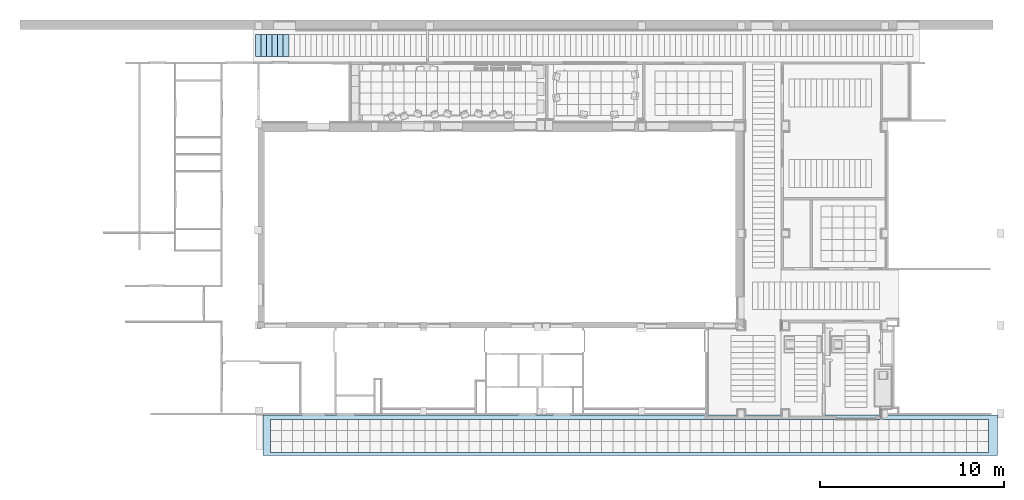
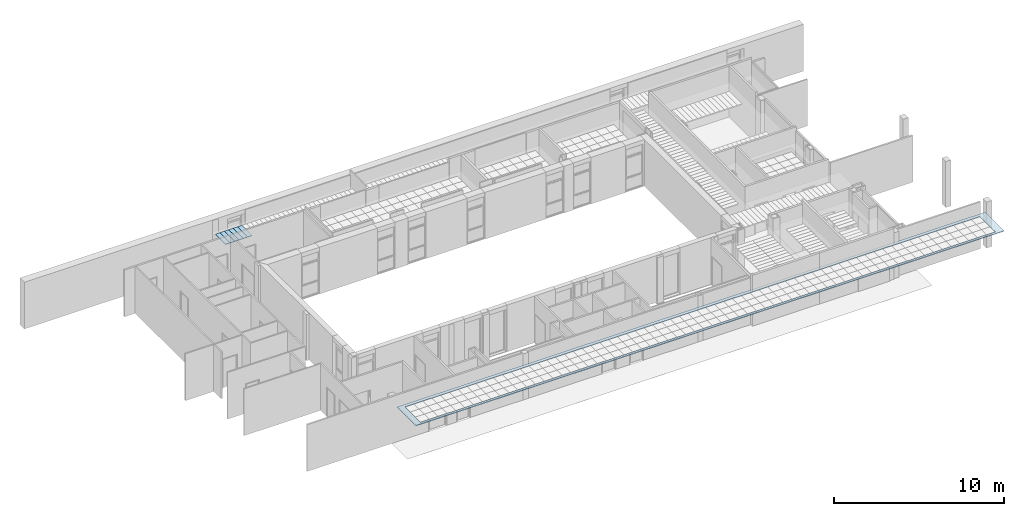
# One storey, part 1 of 60: 7 slabs.
"""IFC2X3 building model written with IfcOpenShell, lengths in millimetres."""

from ifc_helpers import new_model, entity, si_unit, converted_unit, derived_unit, money_unit, direction, frame, origin_with_axes, place, context, subcontext, project, spatial, polyline, outline, extrude, material, layer, layer_set, layer_usage, type_object, element, save


model = new_model("IFC2X3")

# Units and contexts
model_context = context("Model", 3, precision=0.01, world=origin_with_axes(), true_north=direction((0.0, 1.0)))
body_context = subcontext(model_context, "Body", "Model", "MODEL_VIEW")
ifc_project = project(units=[si_unit("LENGTHUNIT", "METRE", prefix="MILLI"), si_unit("AREAUNIT", "SQUARE_METRE"), si_unit("VOLUMEUNIT", "CUBIC_METRE"), converted_unit("PLANEANGLEUNIT", "DEGREE", entity("IfcPlaneAngleMeasure", 0.0174532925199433), si_unit("PLANEANGLEUNIT", "RADIAN"), dimensions=[0, 0, 0, 0, 0, 0, 0]), money_unit("USD"), converted_unit("TIMEUNIT", "Year", entity("IfcTimeMeasure", 31557600.0), si_unit("TIMEUNIT", "SECOND"), dimensions=[0, 0, 1, 0, 0, 0, 0]), si_unit("MASSUNIT", "GRAM", prefix="KILO"), si_unit("THERMODYNAMICTEMPERATUREUNIT", "DEGREE_CELSIUS"), si_unit("LUMINOUSINTENSITYUNIT", "LUMEN"), si_unit("ENERGYUNIT", "JOULE", prefix="MEGA"), derived_unit("THERMALCONDUCTANCEUNIT", [(si_unit("POWERUNIT", "WATT"), 1), (si_unit("LENGTHUNIT", "METRE"), -1), (si_unit("THERMODYNAMICTEMPERATUREUNIT", "KELVIN"), -1)]), derived_unit("SPECIFICHEATCAPACITYUNIT", [(si_unit("ENERGYUNIT", "JOULE"), 1), (si_unit("MASSUNIT", "GRAM", prefix="KILO"), -1), (si_unit("THERMODYNAMICTEMPERATUREUNIT", "KELVIN"), -1)]), derived_unit("MASSDENSITYUNIT", [(si_unit("MASSUNIT", "GRAM", prefix="KILO"), 1), (si_unit("VOLUMEUNIT", "CUBIC_METRE"), -1)])], contexts=[model_context])

# Site, building, storey
site_placement = place(None, origin_with_axes())
site = spatial("IfcSite", under=ifc_project, at=site_placement, Name="Sitio", CompositionType="ELEMENT")
building_placement = place(site_placement, origin_with_axes())
building = spatial("IfcBuilding", under=site, at=building_placement, Name="Construcción", CompositionType="ELEMENT")
storey_placement = place(building_placement, frame((0.0, 0.0, 3650.0), z_axis=(0.0, 0.0, 1.0), x_axis=(1.0, 0.0, 0.0)))
storey = spatial("IfcBuildingStorey", under=building, at=storey_placement, Name="PLANTA 2ª", CompositionType="ELEMENT", Elevation=3650.0)

# Slabs
ifc_material_1 = material(Name="ARQ_ME126_CelRas_Placa_Metallica")
ifc_layer_1 = layer(ifc_material_1, 50.0, ventilated="UNKNOWN")
ifc_layer_set_1 = layer_set([ifc_layer_1], Name="ARQ_ME126_CelRas_Placa_Metallica 50")
ifc_layer_usage_1 = layer_usage(ifc_layer_set_1, "AXIS3", "NEGATIVE", 50.0)
slab_type_1 = type_object("IfcSlabType", Name="ARQ_ME126_CelRas_Placa_Metallica 50", PredefinedType="NOTDEFINED")
slab_1_placement = place(storey_placement, frame((-27270.23708222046, 3586.50452866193, 2500.0), z_axis=(0.0, 0.0, 1.0), x_axis=(1.0, 0.0, 0.0)))
element("IfcSlab", 1, at=slab_1_placement, inside=storey, type_object=slab_type_1, material=ifc_layer_usage_1, Name="SLA - 026", PredefinedType="NOTDEFINED", context=body_context, shape_type="SweptSolid", body=[
    extrude(outline(polyline([(0.0, 0.0), (0.0, -1199.999999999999), (299.9999999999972, -1199.999999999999), (299.9999999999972, 0.0), (0.0, 0.0)])), frame((0.0, 0.0, -50.0), z_axis=(0.0, 0.0, 1.0), x_axis=(1.0, 0.0, 0.0)), (0.0, 0.0, 1.0), 50.0),
])
ifc_layer_usage_2 = layer_usage(ifc_layer_set_1, "AXIS3", "NEGATIVE", 50.0)
slab_2_placement = place(storey_placement, frame((-26970.23708222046, 3586.50452866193, 2500.0), z_axis=(0.0, 0.0, 1.0), x_axis=(1.0, 0.0, 0.0)))
element("IfcSlab", 2, at=slab_2_placement, inside=storey, type_object=slab_type_1, material=ifc_layer_usage_2, Name="SLA - 026", PredefinedType="NOTDEFINED", context=body_context, shape_type="SweptSolid", body=[
    extrude(outline(polyline([(0.0, 0.0), (0.0, -1199.999999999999), (299.9999999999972, -1199.999999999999), (299.9999999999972, 0.0), (0.0, 0.0)])), frame((0.0, 0.0, -50.0), z_axis=(0.0, 0.0, 1.0), x_axis=(1.0, 0.0, 0.0)), (0.0, 0.0, 1.0), 50.0),
])
ifc_layer_usage_3 = layer_usage(ifc_layer_set_1, "AXIS3", "NEGATIVE", 50.0)
slab_3_placement = place(storey_placement, frame((-27570.23708222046, 3586.50452866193, 2500.0), z_axis=(0.0, 0.0, 1.0), x_axis=(1.0, 0.0, 0.0)))
element("IfcSlab", 3, at=slab_3_placement, inside=storey, type_object=slab_type_1, material=ifc_layer_usage_3, Name="SLA - 026", PredefinedType="NOTDEFINED", context=body_context, shape_type="SweptSolid", body=[
    extrude(outline(polyline([(0.0, 0.0), (0.0, -1199.999999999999), (299.9999999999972, -1199.999999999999), (299.9999999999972, 0.0), (0.0, 0.0)])), frame((0.0, 0.0, -50.0), z_axis=(0.0, 0.0, 1.0), x_axis=(1.0, 0.0, 0.0)), (0.0, 0.0, 1.0), 50.0),
])
ifc_layer_usage_4 = layer_usage(ifc_layer_set_1, "AXIS3", "NEGATIVE", 50.0)
slab_4_placement = place(storey_placement, frame((-26670.23708222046, 3586.50452866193, 2500.0), z_axis=(0.0, 0.0, 1.0), x_axis=(1.0, 0.0, 0.0)))
element("IfcSlab", 4, at=slab_4_placement, inside=storey, type_object=slab_type_1, material=ifc_layer_usage_4, Name="SLA - 026", PredefinedType="NOTDEFINED", context=body_context, shape_type="SweptSolid", body=[
    extrude(outline(polyline([(0.0, 0.0), (0.0, -1199.999999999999), (300.0000000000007, -1199.999999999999), (300.0000000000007, 0.0), (0.0, 0.0)])), frame((0.0, 0.0, -50.0), z_axis=(0.0, 0.0, 1.0), x_axis=(1.0, 0.0, 0.0)), (0.0, 0.0, 1.0), 50.0),
])
ifc_layer_usage_5 = layer_usage(ifc_layer_set_1, "AXIS3", "NEGATIVE", 50.0)
slab_5_placement = place(storey_placement, frame((-27870.23708222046, 3586.50452866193, 2500.0), z_axis=(0.0, 0.0, 1.0), x_axis=(1.0, 0.0, 0.0)))
element("IfcSlab", 5, at=slab_5_placement, inside=storey, type_object=slab_type_1, material=ifc_layer_usage_5, Name="SLA - 026", PredefinedType="NOTDEFINED", context=body_context, shape_type="SweptSolid", body=[
    extrude(outline(polyline([(0.0, 0.0), (0.0, -1199.999999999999), (299.9999999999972, -1199.999999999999), (299.9999999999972, 0.0), (0.0, 0.0)])), frame((0.0, 0.0, -50.0), z_axis=(0.0, 0.0, 1.0), x_axis=(1.0, 0.0, 0.0)), (0.0, 0.0, 1.0), 50.0),
])
ifc_layer_usage_6 = layer_usage(ifc_layer_set_1, "AXIS3", "NEGATIVE", 50.0)
slab_6_placement = place(storey_placement, frame((-28170.23708222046, 3586.50452866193, 2500.0), z_axis=(0.0, 0.0, 1.0), x_axis=(1.0, 0.0, 0.0)))
element("IfcSlab", 6, at=slab_6_placement, inside=storey, type_object=slab_type_1, material=ifc_layer_usage_6, Name="SLA - 026", PredefinedType="NOTDEFINED", context=body_context, shape_type="SweptSolid", body=[
    extrude(outline(polyline([(0.0, 0.0), (0.0, -1199.999999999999), (299.9999999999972, -1199.999999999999), (299.9999999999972, 0.0), (0.0, 0.0)])), frame((0.0, 0.0, -50.0), z_axis=(0.0, 0.0, 1.0), x_axis=(1.0, 0.0, 0.0)), (0.0, 0.0, 1.0), 50.0),
])
ifc_material_2 = material(Name="ARQ_CG064_CelRas_Guix_Continu")
ifc_layer_2 = layer(ifc_material_2, 53.0, ventilated="UNKNOWN")
ifc_layer_set_2 = layer_set([ifc_layer_2], Name="ARQ_CG064_CelRas_Guix_Continu 53")
ifc_layer_usage_7 = layer_usage(ifc_layer_set_2, "AXIS3", "NEGATIVE", 53.0)
slab_type_2 = type_object("IfcSlabType", Name="ARQ_CG064_CelRas_Guix_Continu 53", PredefinedType="NOTDEFINED")
slab_7_placement = place(storey_placement, frame((-27767.8941980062, -19283.97582371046, 2500.0), z_axis=(0.0, 0.0, 1.0), x_axis=(1.0, 0.0, 0.0)))
element("IfcSlab", 7, at=slab_7_placement, inside=storey, type_object=slab_type_2, material=ifc_layer_usage_7, Name="SLA - 014", PredefinedType="NOTDEFINED", context=body_context, shape_type="SweptSolid", body=[
    extrude(outline(polyline([(0.0, 0.0), (39896.78524565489, 0.0), (39896.78524565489, 2199.999999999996), (0.0, 2199.999999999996), (0.0, 0.0)]), holes=[polyline([(39398.19091463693, 1962.000059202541), (39398.19091463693, 162.000059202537), (398.190914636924, 162.000059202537), (398.190914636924, 1962.000059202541), (39398.19091463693, 1962.000059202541)])]), frame((0.0, 0.0, -53.0), z_axis=(0.0, 0.0, 1.0), x_axis=(1.0, 0.0, 0.0)), (0.0, 0.0, 1.0), 53.0),
])

save(model, "model.ifc")
